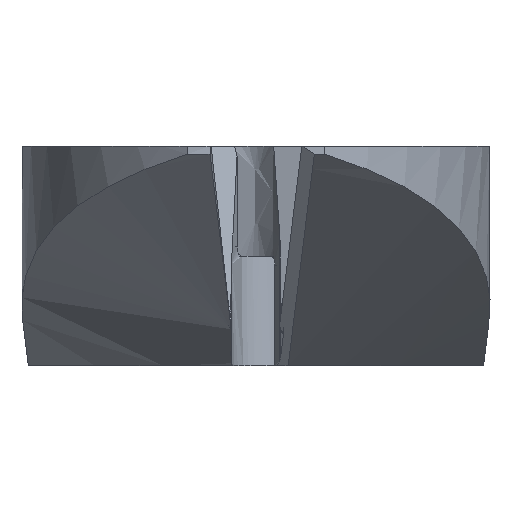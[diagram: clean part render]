
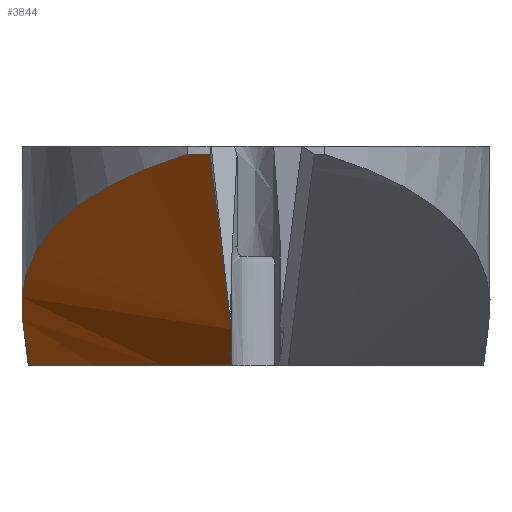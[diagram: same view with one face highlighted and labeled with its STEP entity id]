
A CAD part, left-side view. The second image highlights one B-rep face of the part: STEP entity #3844.
In plain terms, the highlighted cylindrical face has radius 75 mm (diameter 150 mm), a partial arc.
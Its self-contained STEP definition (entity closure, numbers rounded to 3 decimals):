
#87 = DIRECTION ( 'NONE',  ( -0.866, 0., 0.5 ) ) ;
#510 = CARTESIAN_POINT ( 'NONE',  ( -15.254, 0.25, -11.853 ) ) ;
#578 = CARTESIAN_POINT ( 'NONE',  ( -14.383, 7.772, -12. ) ) ;
#599 = CARTESIAN_POINT ( 'NONE',  ( -17.324, 11.5, -9.634 ) ) ;
#689 = CARTESIAN_POINT ( 'NONE',  ( -32.458, 4.82, -1.742 ) ) ;
#734 = CARTESIAN_POINT ( 'NONE',  ( -27.481, 8.853, -4.188 ) ) ;
#771 = CARTESIAN_POINT ( 'NONE',  ( -19.233, 11.5, -8.532 ) ) ;
#836 =( BOUNDED_CURVE ( )  B_SPLINE_CURVE ( 3, ( #1328, #9899, #578, #6506 ),
 .UNSPECIFIED., .F., .F. ) 
 B_SPLINE_CURVE_WITH_KNOTS ( ( 4, 4 ),
 ( 3.145, 3.296 ),
 .UNSPECIFIED. ) 
 CURVE ( )  GEOMETRIC_REPRESENTATION_ITEM ( )  RATIONAL_B_SPLINE_CURVE ( ( 1., 0.998, 0.998, 1. ) ) 
 REPRESENTATION_ITEM ( '' )  );
#954 = CARTESIAN_POINT ( 'NONE',  ( -14.449, 11.5, -11.294 ) ) ;
#1087 = EDGE_CURVE ( 'NONE', #8311, #3764, #9207, .T. ) ;
#1247 = ORIENTED_EDGE ( 'NONE', *, *, #6810, .F. ) ;
#1279 = CARTESIAN_POINT ( 'NONE',  ( -35., 0.833, -0.449 ) ) ;
#1306 = ORIENTED_EDGE ( 'NONE', *, *, #9818, .T. ) ;
#1328 = CARTESIAN_POINT ( 'NONE',  ( -14.999, 0.239, -12. ) ) ;
#1527 = CARTESIAN_POINT ( 'NONE',  ( -35., 1.25, -0.441 ) ) ;
#1550 = CARTESIAN_POINT ( 'NONE',  ( -31.989, 5.327, -1.973 ) ) ;
#1584 = CARTESIAN_POINT ( 'NONE',  ( -26.618, 9.341, -4.619 ) ) ;
#1817 = CARTESIAN_POINT ( 'NONE',  ( -16.896, 11.5, -9.881 ) ) ;
#2050 = EDGE_CURVE ( 'NONE', #3764, #10390, #4022, .T. ) ;
#2066 = DIRECTION ( 'NONE',  ( -0.866, 0., 0.5 ) ) ;
#2067 = ORIENTED_EDGE ( 'NONE', *, *, #2050, .T. ) ;
#2173 = CARTESIAN_POINT ( 'NONE',  ( -24.337, 0.25, -6.609 ) ) ;
#2399 = CARTESIAN_POINT ( 'NONE',  ( -31.747, 5.575, -2.092 ) ) ;
#2437 = CARTESIAN_POINT ( 'NONE',  ( -24.622, 10.209, -5.639 ) ) ;
#2441 = EDGE_CURVE ( 'NONE', #5758, #4749, #2821, .T. ) ;
#2476 = B_SPLINE_CURVE_WITH_KNOTS ( 'NONE', 3,
 ( #4632, #5488, #1279, #7213 ),
 .UNSPECIFIED., .F., .F.,
 ( 4, 4 ),
 ( 0., 1. ),
 .UNSPECIFIED. ) ;
#2578 = VERTEX_POINT ( 'NONE', #1527 ) ;
#2821 = B_SPLINE_CURVE_WITH_KNOTS ( 'NONE', 3,
 ( #5678, #10778, #599, #6529 ),
 .UNSPECIFIED., .F., .F.,
 ( 4, 4 ),
 ( 0., 1. ),
 .UNSPECIFIED. ) ;
#3105 = CARTESIAN_POINT ( 'NONE',  ( -15.254, 0.25, -11.853 ) ) ;
#3136 = B_SPLINE_CURVE_WITH_KNOTS ( 'NONE', 3,
 ( #9158, #3204, #4900, #10869, #5767, #689, #6627, #1550, #7478, #2399, #8341, #3250, #9193, #4093, #10052, #4942, #10908, #5807, #734, #6662, #1584, #7523, #2437, #8376, #3283, #9239, #4127, #10089, #4983, #10949, #5840, #771, #6705 ),
 .UNSPECIFIED., .F., .F.,
 ( 4, 2, 2, 1, 2, 2, 2, 2, 1, 1, 2, 2, 2, 2, 1, 1, 2, 2, 4 ),
 ( 0., 0.125, 0.187, 0.219, 0.234, 0.25, 0.375, 0.437, 0.469, 0.484, 0.492, 0.5, 0.625, 0.687, 0.719, 0.734, 0.742, 0.75, 1. ),
 .UNSPECIFIED. ) ;
#3147 = CARTESIAN_POINT ( 'NONE',  ( -16.896, 11.5, -9.881 ) ) ;
#3204 = CARTESIAN_POINT ( 'NONE',  ( -34.544, 2.067, -0.689 ) ) ;
#3250 = CARTESIAN_POINT ( 'NONE',  ( -30.343, 6.89, -2.778 ) ) ;
#3283 = CARTESIAN_POINT ( 'NONE',  ( -23.595, 10.562, -6.175 ) ) ;
#3764 = VERTEX_POINT ( 'NONE', #9369 ) ;
#3779 = CARTESIAN_POINT ( 'NONE',  ( -14.999, 0.239, -12. ) ) ;
#3844 = ADVANCED_FACE ( 'NONE', ( #10157 ), #5630, .T. ) ;
#4022 = LINE ( 'NONE', #5146, #6290 ) ;
#4093 = CARTESIAN_POINT ( 'NONE',  ( -28.906, 7.962, -3.483 ) ) ;
#4127 = CARTESIAN_POINT ( 'NONE',  ( -22.916, 10.764, -6.533 ) ) ;
#4143 = CARTESIAN_POINT ( 'NONE',  ( 2.367, 0., 64.576 ) ) ;
#4632 = CARTESIAN_POINT ( 'NONE',  ( -35., 0., -0.453 ) ) ;
#4749 = VERTEX_POINT ( 'NONE', #11018 ) ;
#4897 = CARTESIAN_POINT ( 'NONE',  ( -13.226, 11.5, -12. ) ) ;
#4900 = CARTESIAN_POINT ( 'NONE',  ( -34.037, 2.842, -0.951 ) ) ;
#4942 = CARTESIAN_POINT ( 'NONE',  ( -28.061, 8.511, -3.9 ) ) ;
#4983 = CARTESIAN_POINT ( 'NONE',  ( -22.653, 10.835, -6.673 ) ) ;
#5000 = DIRECTION ( 'NONE',  ( -0.5, 0., -0.866 ) ) ;
#5146 = CARTESIAN_POINT ( 'NONE',  ( -24.337, 0., -6.609 ) ) ;
#5209 = EDGE_LOOP ( 'NONE', ( #2067, #5775, #1306, #6134, #5546, #1247, #7245, #10947 ) ) ;
#5488 = CARTESIAN_POINT ( 'NONE',  ( -35., 0.417, -0.453 ) ) ;
#5546 = ORIENTED_EDGE ( 'NONE', *, *, #6714, .F. ) ;
#5579 = AXIS2_PLACEMENT_3D ( 'NONE', #4143, #9255, #5000 ) ;
#5584 = B_SPLINE_CURVE_WITH_KNOTS ( 'NONE', 3,
 ( #6040, #954, #6891, #1817 ),
 .UNSPECIFIED., .F., .F.,
 ( 4, 4 ),
 ( 0., 1. ),
 .UNSPECIFIED. ) ;
#5627 = CARTESIAN_POINT ( 'NONE',  ( -15.084, 0.246, -11.951 ) ) ;
#5630 = CYLINDRICAL_SURFACE ( 'NONE', #5579, 75. ) ;
#5678 = CARTESIAN_POINT ( 'NONE',  ( -16.896, 11.5, -9.881 ) ) ;
#5758 = VERTEX_POINT ( 'NONE', #3147 ) ;
#5767 = CARTESIAN_POINT ( 'NONE',  ( -32.912, 4.301, -1.517 ) ) ;
#5775 = ORIENTED_EDGE ( 'NONE', *, *, #7326, .T. ) ;
#5807 = CARTESIAN_POINT ( 'NONE',  ( -27.579, 8.797, -4.14 ) ) ;
#5808 = VERTEX_POINT ( 'NONE', #4897 ) ;
#5840 = CARTESIAN_POINT ( 'NONE',  ( -20.904, 11.288, -7.607 ) ) ;
#6040 = CARTESIAN_POINT ( 'NONE',  ( -13.226, 11.5, -12. ) ) ;
#6134 = ORIENTED_EDGE ( 'NONE', *, *, #2441, .F. ) ;
#6290 = VECTOR ( 'NONE', #87, 1000. ) ;
#6456 = EDGE_CURVE ( 'NONE', #6684, #8311, #9813, .T. ) ;
#6506 = CARTESIAN_POINT ( 'NONE',  ( -13.226, 11.5, -12. ) ) ;
#6529 = CARTESIAN_POINT ( 'NONE',  ( -17.538, 11.5, -9.511 ) ) ;
#6627 = CARTESIAN_POINT ( 'NONE',  ( -32.227, 5.076, -1.856 ) ) ;
#6662 = CARTESIAN_POINT ( 'NONE',  ( -27.432, 8.881, -4.213 ) ) ;
#6684 = VERTEX_POINT ( 'NONE', #9312 ) ;
#6705 = CARTESIAN_POINT ( 'NONE',  ( -17.538, 11.5, -9.511 ) ) ;
#6714 = EDGE_CURVE ( 'NONE', #5808, #5758, #5584, .T. ) ;
#6810 = EDGE_CURVE ( 'NONE', #6684, #5808, #836, .T. ) ;
#6891 = CARTESIAN_POINT ( 'NONE',  ( -15.673, 11.5, -10.587 ) ) ;
#7094 = CARTESIAN_POINT ( 'NONE',  ( -35., 0., -0.453 ) ) ;
#7213 = CARTESIAN_POINT ( 'NONE',  ( -35., 1.25, -0.441 ) ) ;
#7214 = VECTOR ( 'NONE', #2066, 1000. ) ;
#7245 = ORIENTED_EDGE ( 'NONE', *, *, #6456, .T. ) ;
#7326 = EDGE_CURVE ( 'NONE', #10390, #2578, #2476, .T. ) ;
#7478 = CARTESIAN_POINT ( 'NONE',  ( -31.829, 5.492, -2.052 ) ) ;
#7523 = CARTESIAN_POINT ( 'NONE',  ( -25.832, 9.72, -5.017 ) ) ;
#8199 = CARTESIAN_POINT ( 'NONE',  ( -15.169, 0.25, -11.902 ) ) ;
#8311 = VERTEX_POINT ( 'NONE', #510 ) ;
#8341 = CARTESIAN_POINT ( 'NONE',  ( -31.023, 6.298, -2.447 ) ) ;
#8376 = CARTESIAN_POINT ( 'NONE',  ( -24.214, 10.358, -5.85 ) ) ;
#9158 = CARTESIAN_POINT ( 'NONE',  ( -35., 1.25, -0.441 ) ) ;
#9193 = CARTESIAN_POINT ( 'NONE',  ( -29.271, 7.703, -3.303 ) ) ;
#9207 = LINE ( 'NONE', #2173, #7214 ) ;
#9239 = CARTESIAN_POINT ( 'NONE',  ( -23.283, 10.659, -6.339 ) ) ;
#9255 = DIRECTION ( 'NONE',  ( 0.866, 0., -0.5 ) ) ;
#9312 = CARTESIAN_POINT ( 'NONE',  ( -14.999, 0.239, -12. ) ) ;
#9369 = CARTESIAN_POINT ( 'NONE',  ( -17.679, 0.086, -10.002 ) ) ;
#9813 = B_SPLINE_CURVE_WITH_KNOTS ( 'NONE', 3,
 ( #3779, #5627, #8199, #3105 ),
 .UNSPECIFIED., .F., .F.,
 ( 4, 4 ),
 ( 0., 1. ),
 .UNSPECIFIED. ) ;
#9818 = EDGE_CURVE ( 'NONE', #2578, #4749, #3136, .T. ) ;
#9899 = CARTESIAN_POINT ( 'NONE',  ( -14.975, 4.012, -12. ) ) ;
#10052 = CARTESIAN_POINT ( 'NONE',  ( -28.344, 8.331, -3.76 ) ) ;
#10089 = CARTESIAN_POINT ( 'NONE',  ( -22.758, 10.807, -6.617 ) ) ;
#10157 = FACE_OUTER_BOUND ( 'NONE', #5209, .T. ) ;
#10390 = VERTEX_POINT ( 'NONE', #7094 ) ;
#10778 = CARTESIAN_POINT ( 'NONE',  ( -17.11, 11.5, -9.758 ) ) ;
#10869 = CARTESIAN_POINT ( 'NONE',  ( -33.203, 3.944, -1.372 ) ) ;
#10908 = CARTESIAN_POINT ( 'NONE',  ( -27.724, 8.712, -4.068 ) ) ;
#10947 = ORIENTED_EDGE ( 'NONE', *, *, #1087, .T. ) ;
#10949 = CARTESIAN_POINT ( 'NONE',  ( -22.599, 10.849, -6.702 ) ) ;
#11018 = CARTESIAN_POINT ( 'NONE',  ( -17.538, 11.5, -9.511 ) ) ;
